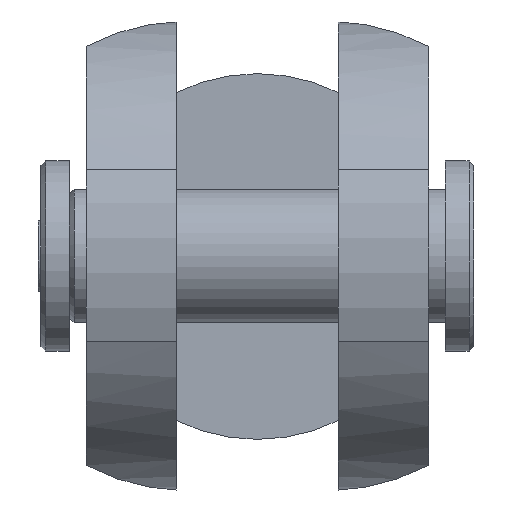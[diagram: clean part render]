
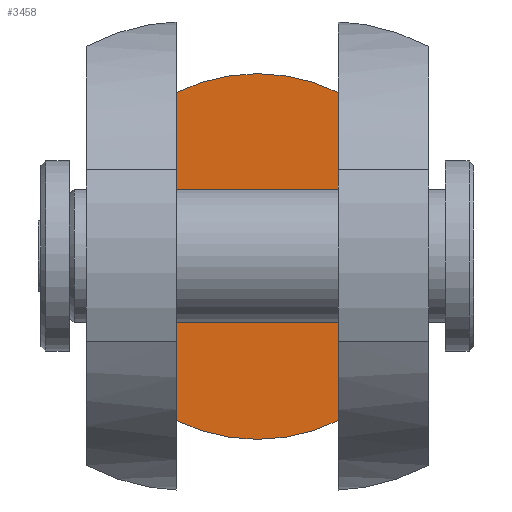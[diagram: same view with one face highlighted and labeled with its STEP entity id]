
A CAD part, top view. The second image highlights one B-rep face of the part: STEP entity #3458.
In plain terms, the highlighted planar face has unit normal (0, 0, 1).
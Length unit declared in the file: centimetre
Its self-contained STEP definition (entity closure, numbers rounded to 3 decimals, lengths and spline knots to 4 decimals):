
#151=PLANE('',#3647);
#502=LINE('',#5611,#850);
#503=LINE('',#5613,#851);
#850=VECTOR('',#4341,3.4465);
#851=VECTOR('',#4344,3.4465);
#1137=FACE_OUTER_BOUND('',#1343,.T.);
#1343=EDGE_LOOP('',(#3011,#3012,#3013,#3014));
#1405=CIRCLE('',#3502,1.9215);
#1406=CIRCLE('',#3503,1.9215);
#1452=VERTEX_POINT('',#4496);
#1453=VERTEX_POINT('',#4500);
#1458=VERTEX_POINT('',#4528);
#1459=VERTEX_POINT('',#4532);
#1762=EDGE_CURVE('',#1452,#1453,#1405,.T.);
#1768=EDGE_CURVE('',#1458,#1459,#1406,.T.);
#2163=EDGE_CURVE('',#1459,#1452,#502,.T.);
#2164=EDGE_CURVE('',#1458,#1453,#503,.T.);
#3011=ORIENTED_EDGE('',*,*,#1768,.F.);
#3012=ORIENTED_EDGE('',*,*,#2164,.T.);
#3013=ORIENTED_EDGE('',*,*,#1762,.F.);
#3014=ORIENTED_EDGE('',*,*,#2163,.F.);
#3458=ADVANCED_FACE('',(#1137),#151,.F.);
#3502=AXIS2_PLACEMENT_3D('',#4501,#3717,#3718);
#3503=AXIS2_PLACEMENT_3D('',#4533,#3719,#3720);
#3647=AXIS2_PLACEMENT_3D('',#5612,#4342,#4343);
#3717=DIRECTION('center_axis',(0.,0.,
-1.));
#3718=DIRECTION('ref_axis',(0.,-1.,0.));
#3719=DIRECTION('center_axis',(0.,0.,
-1.));
#3720=DIRECTION('ref_axis',(0.,-1.,0.));
#4341=DIRECTION('',(0.,1.,0.));
#4342=DIRECTION('center_axis',(0.,0.,
-1.));
#4343=DIRECTION('ref_axis',(-1.,0.,0.));
#4344=DIRECTION('',(0.,1.,0.));
#4496=CARTESIAN_POINT('',(-0.85,1.7233,-3.2));
#4500=CARTESIAN_POINT('',(0.85,1.7233,-3.2));
#4501=CARTESIAN_POINT('Origin',(0.,0.,
-3.2));
#4528=CARTESIAN_POINT('',(0.85,-1.7233,-3.2));
#4532=CARTESIAN_POINT('',(-0.85,-1.7233,-3.2));
#4533=CARTESIAN_POINT('Origin',(0.,0.,
-3.2));
#5611=CARTESIAN_POINT('',(-0.85,0.,-3.2));
#5612=CARTESIAN_POINT('Origin',(0.85,0.,
-3.2));
#5613=CARTESIAN_POINT('',(0.85,0.,-3.2));
